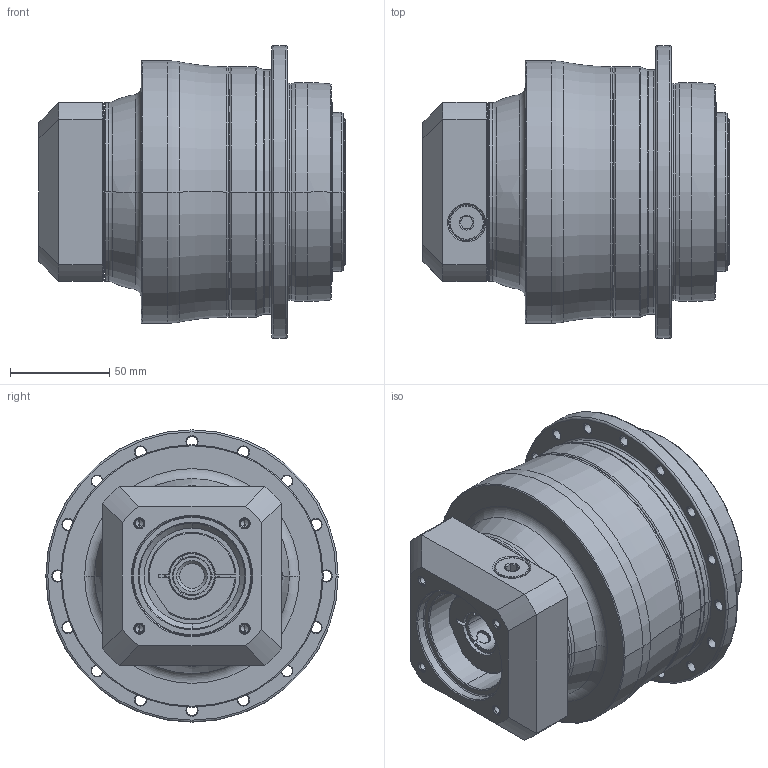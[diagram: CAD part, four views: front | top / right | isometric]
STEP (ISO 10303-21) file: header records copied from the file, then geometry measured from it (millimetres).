
FILE_DESCRIPTION((''),'2;1');
FILE_NAME('AP110_2ST_19-P0409400201_ASM','2018-05-28T',('d01226'),(''),'PRO/ENGINEER BY PARAMETRIC TECHNOLOGY CORPORATION, 2008410','PRO/ENGINEER BY PARAMETRIC TECHNOLOGY CORPORATION, 2008410','');
FILE_SCHEMA(('CONFIG_CONTROL_DESIGN'));
Length unit declared in the file: millimetre
Products named in the file (9): P0278401003; P0359401103; P1317410101; P0503400006; P0912302001; P1211400001; P0409400201; 21711412017; AP110_2ST_19-P0409400201_ASM
Assembly tree (8 placements, depth 2):
  AP110_2ST_19-P0409400201_ASM
    P0278401003
    P0359401103
    P1317410101
    P0503400006
    P0912302001
    P1211400001
    P0409400201
    21711412017
Bounding box: 154 x 147 x 147 mm (x, y, z)
Volume: 1362263.4 mm3; surface area: 193637.5 mm2
Topology: 9 solids, 30 shells, 594 faces, 1369 edges, 834 vertices
Faces by surface type: cylinder 240, cone 164, plane 100, torus 74, bspline 16
Entity records: 21482 total; most frequent: CARTESIAN_POINT 7353, DIRECTION 3249, ORIENTED_EDGE 2620, AXIS2_PLACEMENT_3D 1390, EDGE_CURVE 1353, VERTEX_POINT 834, CIRCLE 785, EDGE_LOOP 725
